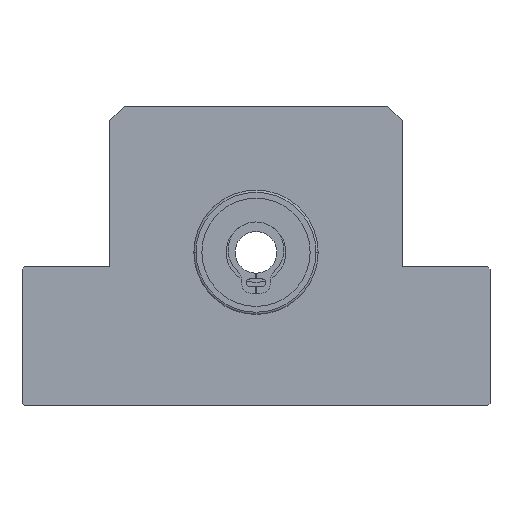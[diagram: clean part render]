
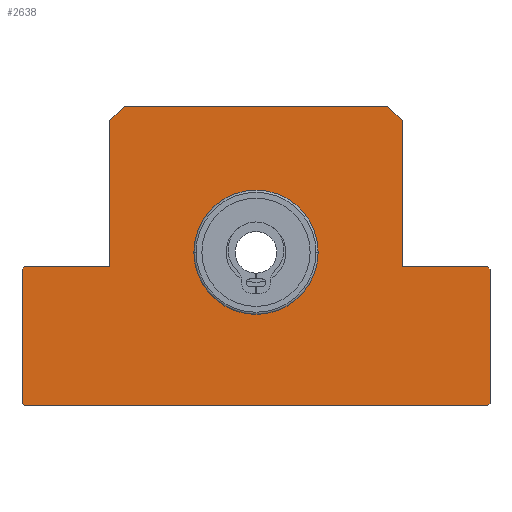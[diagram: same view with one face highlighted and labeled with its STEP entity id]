
A CAD part, top view. The second image highlights one B-rep face of the part: STEP entity #2638.
In plain terms, the highlighted planar face has unit normal (0, 0, 1).
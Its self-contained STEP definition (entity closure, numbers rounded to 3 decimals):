
#49 = ORIENTED_EDGE ( 'NONE', *, *, #3284, .T. ) ;
#51 = DIRECTION ( 'NONE',  ( -0.707, 0.707, 0. ) ) ;
#75 = CARTESIAN_POINT ( 'NONE',  ( -20., 18., 14. ) ) ;
#77 = EDGE_CURVE ( 'NONE', #238, #1290, #1453, .T. ) ;
#125 = DIRECTION ( 'NONE',  ( 0., 1., 0. ) ) ;
#130 = VECTOR ( 'NONE', #1159, 1000. ) ;
#143 = CIRCLE ( 'NONE', #818, 8.5 ) ;
#162 = ORIENTED_EDGE ( 'NONE', *, *, #2699, .F. ) ;
#163 = CARTESIAN_POINT ( 'NONE',  ( -18., 20., 14. ) ) ;
#177 = CARTESIAN_POINT ( 'NONE',  ( -20., -2., 14. ) ) ;
#187 = ORIENTED_EDGE ( 'NONE', *, *, #1474, .T. ) ;
#204 = EDGE_CURVE ( 'NONE', #1054, #1634, #1112, .T. ) ;
#230 = CARTESIAN_POINT ( 'NONE',  ( -31.7, -21., 14. ) ) ;
#238 = VERTEX_POINT ( 'NONE', #1635 ) ;
#268 = CARTESIAN_POINT ( 'NONE',  ( 0., 0., 14. ) ) ;
#298 = VECTOR ( 'NONE', #2752, 1000. ) ;
#337 = LINE ( 'NONE', #849, #2841 ) ;
#378 = ORIENTED_EDGE ( 'NONE', *, *, #3015, .T. ) ;
#455 = LINE ( 'NONE', #1233, #1875 ) ;
#458 = LINE ( 'NONE', #2058, #2191 ) ;
#463 = VERTEX_POINT ( 'NONE', #885 ) ;
#547 = LINE ( 'NONE', #2669, #2033 ) ;
#549 = ORIENTED_EDGE ( 'NONE', *, *, #2053, .F. ) ;
#550 = ORIENTED_EDGE ( 'NONE', *, *, #2284, .T. ) ;
#601 = AXIS2_PLACEMENT_3D ( 'NONE', #268, #2971, #1363 ) ;
#610 = EDGE_CURVE ( 'NONE', #2603, #1021, #458, .T. ) ;
#612 = VECTOR ( 'NONE', #3403, 1000. ) ;
#614 = DIRECTION ( 'NONE',  ( 0.707, -0.707, 0. ) ) ;
#658 = CARTESIAN_POINT ( 'NONE',  ( 31.7, -21., 14. ) ) ;
#679 = CARTESIAN_POINT ( 'NONE',  ( 31.7, -2., 14. ) ) ;
#694 = CARTESIAN_POINT ( 'NONE',  ( -31.7, -21., 14. ) ) ;
#788 = CARTESIAN_POINT ( 'NONE',  ( 20., -2., 14. ) ) ;
#818 = AXIS2_PLACEMENT_3D ( 'NONE', #867, #3295, #1349 ) ;
#849 = CARTESIAN_POINT ( 'NONE',  ( -31.85, -2.15, 14. ) ) ;
#851 = EDGE_CURVE ( 'NONE', #2736, #2283, #3289, .T. ) ;
#864 = VERTEX_POINT ( 'NONE', #1653 ) ;
#867 = CARTESIAN_POINT ( 'NONE',  ( 0., 0., 14. ) ) ;
#885 = CARTESIAN_POINT ( 'NONE',  ( -32., -2.3, 14. ) ) ;
#964 = VERTEX_POINT ( 'NONE', #1801 ) ;
#986 = CIRCLE ( 'NONE', #2436, 8.5 ) ;
#994 = DIRECTION ( 'NONE',  ( -0.707, 0.707, 0. ) ) ;
#998 = VECTOR ( 'NONE', #2584, 1000. ) ;
#1002 = ORIENTED_EDGE ( 'NONE', *, *, #204, .T. ) ;
#1010 = LINE ( 'NONE', #2396, #998 ) ;
#1016 = EDGE_LOOP ( 'NONE', ( #549, #162 ) ) ;
#1021 = VERTEX_POINT ( 'NONE', #679 ) ;
#1024 = EDGE_CURVE ( 'NONE', #3267, #2429, #455, .T. ) ;
#1054 = VERTEX_POINT ( 'NONE', #694 ) ;
#1057 = DIRECTION ( 'NONE',  ( -0.707, -0.707, 0. ) ) ;
#1063 = LINE ( 'NONE', #2908, #1767 ) ;
#1077 = PLANE ( 'NONE',  #601 ) ;
#1106 = DIRECTION ( 'NONE',  ( 1., 0., 0. ) ) ;
#1108 = CARTESIAN_POINT ( 'NONE',  ( 32., -20.7, 14. ) ) ;
#1112 = LINE ( 'NONE', #230, #2889 ) ;
#1129 = FACE_BOUND ( 'NONE', #1016, .T. ) ;
#1151 = EDGE_CURVE ( 'NONE', #2386, #2736, #3446, .T. ) ;
#1159 = DIRECTION ( 'NONE',  ( 0.707, 0.707, 0. ) ) ;
#1233 = CARTESIAN_POINT ( 'NONE',  ( 32., -20.7, 14. ) ) ;
#1239 = EDGE_CURVE ( 'NONE', #1634, #3267, #1967, .T. ) ;
#1255 = CARTESIAN_POINT ( 'NONE',  ( 18., 20., 14. ) ) ;
#1290 = VERTEX_POINT ( 'NONE', #2827 ) ;
#1341 = DIRECTION ( 'NONE',  ( -1., 0., 0. ) ) ;
#1349 = DIRECTION ( 'NONE',  ( 1., 0., 0. ) ) ;
#1363 = DIRECTION ( 'NONE',  ( 1., 0., 0. ) ) ;
#1395 = CARTESIAN_POINT ( 'NONE',  ( 32., -2.3, 14. ) ) ;
#1404 = LINE ( 'NONE', #3281, #3399 ) ;
#1453 = LINE ( 'NONE', #1937, #298 ) ;
#1474 = EDGE_CURVE ( 'NONE', #2559, #238, #2592, .T. ) ;
#1476 = VECTOR ( 'NONE', #2167, 1000. ) ;
#1506 = ORIENTED_EDGE ( 'NONE', *, *, #2727, .T. ) ;
#1547 = ORIENTED_EDGE ( 'NONE', *, *, #1151, .T. ) ;
#1549 = LINE ( 'NONE', #177, #612 ) ;
#1570 = FACE_OUTER_BOUND ( 'NONE', #2295, .T. ) ;
#1578 = EDGE_CURVE ( 'NONE', #1021, #2559, #547, .T. ) ;
#1587 = CARTESIAN_POINT ( 'NONE',  ( 31.85, -2.15, 14. ) ) ;
#1634 = VERTEX_POINT ( 'NONE', #1934 ) ;
#1635 = CARTESIAN_POINT ( 'NONE',  ( 20., 18., 14. ) ) ;
#1653 = CARTESIAN_POINT ( 'NONE',  ( -31.7, -2., 14. ) ) ;
#1767 = VECTOR ( 'NONE', #1057, 1000. ) ;
#1801 = CARTESIAN_POINT ( 'NONE',  ( -31.85, -2.15, 14. ) ) ;
#1849 = ORIENTED_EDGE ( 'NONE', *, *, #2509, .T. ) ;
#1875 = VECTOR ( 'NONE', #125, 1000. ) ;
#1913 = VECTOR ( 'NONE', #614, 1000. ) ;
#1925 = CARTESIAN_POINT ( 'NONE',  ( -32., -20.7, 14. ) ) ;
#1934 = CARTESIAN_POINT ( 'NONE',  ( 31.7, -21., 14. ) ) ;
#1937 = CARTESIAN_POINT ( 'NONE',  ( 20., 18., 14. ) ) ;
#1967 = LINE ( 'NONE', #658, #130 ) ;
#1969 = ORIENTED_EDGE ( 'NONE', *, *, #1239, .T. ) ;
#2033 = VECTOR ( 'NONE', #1341, 1000. ) ;
#2053 = EDGE_CURVE ( 'NONE', #2937, #2693, #986, .T. ) ;
#2058 = CARTESIAN_POINT ( 'NONE',  ( 31.85, -2.15, 14. ) ) ;
#2107 = CARTESIAN_POINT ( 'NONE',  ( -18., 20., 14. ) ) ;
#2113 = VECTOR ( 'NONE', #3147, 1000. ) ;
#2124 = DIRECTION ( 'NONE',  ( -0.707, -0.707, 0. ) ) ;
#2167 = DIRECTION ( 'NONE',  ( 0., 1., 0. ) ) ;
#2170 = VERTEX_POINT ( 'NONE', #3298 ) ;
#2173 = DIRECTION ( 'NONE',  ( 0., -1., 0. ) ) ;
#2178 = DIRECTION ( 'NONE',  ( 1., 0., 0. ) ) ;
#2190 = LINE ( 'NONE', #1925, #1913 ) ;
#2191 = VECTOR ( 'NONE', #994, 1000. ) ;
#2217 = CARTESIAN_POINT ( 'NONE',  ( 8.5, 0., 14. ) ) ;
#2251 = VECTOR ( 'NONE', #2124, 1000. ) ;
#2283 = VERTEX_POINT ( 'NONE', #2454 ) ;
#2284 = EDGE_CURVE ( 'NONE', #2429, #2603, #1404, .T. ) ;
#2295 = EDGE_LOOP ( 'NONE', ( #1547, #2511, #378, #1849, #1506, #3231, #49, #1002, #1969, #3124, #550, #2974, #2800, #187, #3065, #2761 ) ) ;
#2322 = LINE ( 'NONE', #1255, #2113 ) ;
#2362 = CARTESIAN_POINT ( 'NONE',  ( 20., -2., 14. ) ) ;
#2386 = VERTEX_POINT ( 'NONE', #163 ) ;
#2396 = CARTESIAN_POINT ( 'NONE',  ( -32., -2.3, 14. ) ) ;
#2429 = VERTEX_POINT ( 'NONE', #1395 ) ;
#2436 = AXIS2_PLACEMENT_3D ( 'NONE', #2951, #3269, #1106 ) ;
#2454 = CARTESIAN_POINT ( 'NONE',  ( -20., -2., 14. ) ) ;
#2509 = EDGE_CURVE ( 'NONE', #864, #964, #1063, .T. ) ;
#2511 = ORIENTED_EDGE ( 'NONE', *, *, #851, .T. ) ;
#2530 = CARTESIAN_POINT ( 'NONE',  ( -20., 18., 14. ) ) ;
#2559 = VERTEX_POINT ( 'NONE', #2362 ) ;
#2584 = DIRECTION ( 'NONE',  ( 0., -1., 0. ) ) ;
#2592 = LINE ( 'NONE', #788, #1476 ) ;
#2603 = VERTEX_POINT ( 'NONE', #1587 ) ;
#2638 = ADVANCED_FACE ( 'NONE', ( #1570, #1129 ), #1077, .T. ) ;
#2669 = CARTESIAN_POINT ( 'NONE',  ( 31.7, -2., 14. ) ) ;
#2693 = VERTEX_POINT ( 'NONE', #2217 ) ;
#2699 = EDGE_CURVE ( 'NONE', #2693, #2937, #143, .T. ) ;
#2727 = EDGE_CURVE ( 'NONE', #964, #463, #337, .T. ) ;
#2736 = VERTEX_POINT ( 'NONE', #75 ) ;
#2752 = DIRECTION ( 'NONE',  ( -0.707, 0.707, 0. ) ) ;
#2761 = ORIENTED_EDGE ( 'NONE', *, *, #2968, .T. ) ;
#2800 = ORIENTED_EDGE ( 'NONE', *, *, #1578, .T. ) ;
#2820 = CARTESIAN_POINT ( 'NONE',  ( -8.5, 0., 14. ) ) ;
#2827 = CARTESIAN_POINT ( 'NONE',  ( 18., 20., 14. ) ) ;
#2839 = VECTOR ( 'NONE', #2173, 1000. ) ;
#2841 = VECTOR ( 'NONE', #2988, 1000. ) ;
#2889 = VECTOR ( 'NONE', #2178, 1000. ) ;
#2908 = CARTESIAN_POINT ( 'NONE',  ( -31.7, -2., 14. ) ) ;
#2937 = VERTEX_POINT ( 'NONE', #2820 ) ;
#2951 = CARTESIAN_POINT ( 'NONE',  ( 0., 0., 14. ) ) ;
#2968 = EDGE_CURVE ( 'NONE', #1290, #2386, #2322, .T. ) ;
#2971 = DIRECTION ( 'NONE',  ( 0., 0., 1. ) ) ;
#2973 = EDGE_CURVE ( 'NONE', #463, #2170, #1010, .T. ) ;
#2974 = ORIENTED_EDGE ( 'NONE', *, *, #610, .T. ) ;
#2988 = DIRECTION ( 'NONE',  ( -0.707, -0.707, 0. ) ) ;
#3015 = EDGE_CURVE ( 'NONE', #2283, #864, #1549, .T. ) ;
#3065 = ORIENTED_EDGE ( 'NONE', *, *, #77, .T. ) ;
#3124 = ORIENTED_EDGE ( 'NONE', *, *, #1024, .T. ) ;
#3147 = DIRECTION ( 'NONE',  ( -1., 0., 0. ) ) ;
#3231 = ORIENTED_EDGE ( 'NONE', *, *, #2973, .T. ) ;
#3267 = VERTEX_POINT ( 'NONE', #1108 ) ;
#3269 = DIRECTION ( 'NONE',  ( 0., 0., 1. ) ) ;
#3281 = CARTESIAN_POINT ( 'NONE',  ( 32., -2.3, 14. ) ) ;
#3284 = EDGE_CURVE ( 'NONE', #2170, #1054, #2190, .T. ) ;
#3289 = LINE ( 'NONE', #2530, #2839 ) ;
#3295 = DIRECTION ( 'NONE',  ( 0., 0., 1. ) ) ;
#3298 = CARTESIAN_POINT ( 'NONE',  ( -32., -20.7, 14. ) ) ;
#3399 = VECTOR ( 'NONE', #51, 1000. ) ;
#3403 = DIRECTION ( 'NONE',  ( -1., 0., 0. ) ) ;
#3446 = LINE ( 'NONE', #2107, #2251 ) ;
